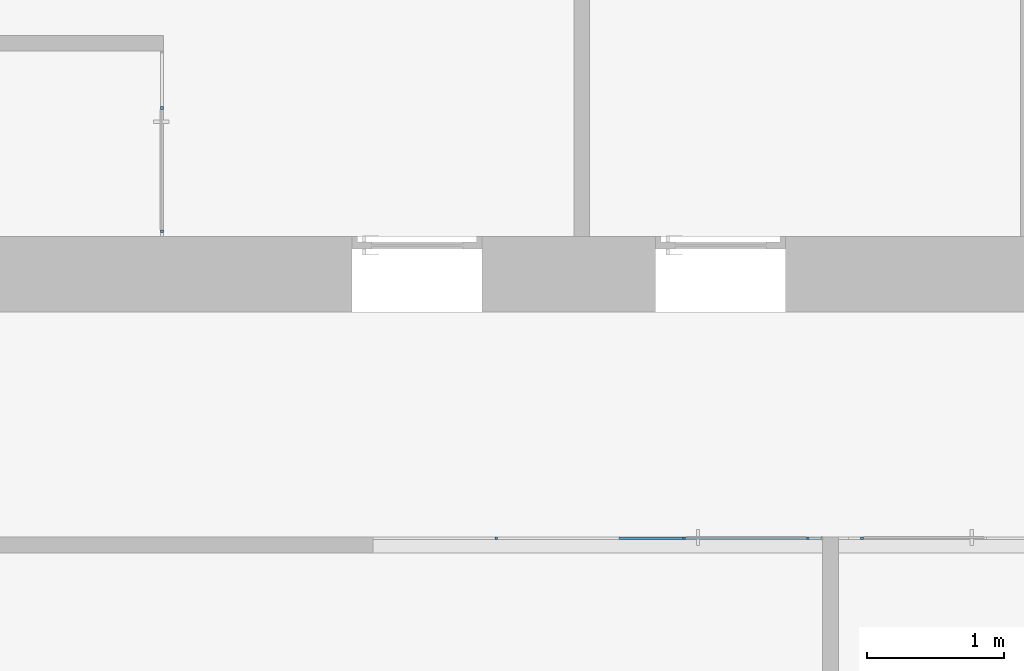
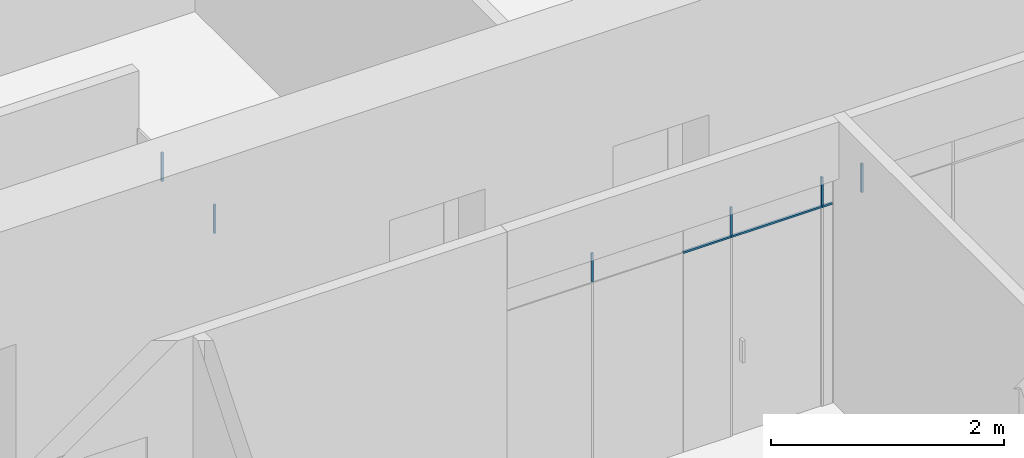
# One storey, part 9 of 73: 9 members, 3 elements without a shape of their own.
"""IFC2X3 building model written with IfcOpenShell, lengths in millimetres."""

from ifc_helpers import new_model, entity, si_unit, converted_unit, derived_unit, direction, frame, origin, origin_2d_with_axis, place, context, subcontext, project, spatial, rectangle, extrude, source, transform, mapped, material, type_object, type_shapes, element, aggregate, save


model = new_model("IFC2X3")

# Units and contexts
model_context = context("Model", 3, precision=0.01, world=origin(), true_north=direction((6.12303176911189e-17, 1.0)))
body_context = subcontext(model_context, "Body", "Model", "MODEL_VIEW")
ifc_project = project(units=[si_unit("LENGTHUNIT", "METRE", prefix="MILLI"), si_unit("AREAUNIT", "SQUARE_METRE"), si_unit("VOLUMEUNIT", "CUBIC_METRE"), converted_unit("PLANEANGLEUNIT", "DEGREE", entity("IfcRatioMeasure", 0.0174532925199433), si_unit("PLANEANGLEUNIT", "RADIAN"), dimensions=[0, 0, 0, 0, 0, 0, 0]), si_unit("MASSUNIT", "GRAM", prefix="KILO"), derived_unit("MASSDENSITYUNIT", [(si_unit("MASSUNIT", "GRAM", prefix="KILO"), 1), (si_unit("LENGTHUNIT", "METRE"), -3)]), si_unit("TIMEUNIT", "SECOND"), si_unit("FREQUENCYUNIT", "HERTZ"), si_unit("THERMODYNAMICTEMPERATUREUNIT", "DEGREE_CELSIUS"), derived_unit("THERMALTRANSMITTANCEUNIT", [(si_unit("MASSUNIT", "GRAM", prefix="KILO"), 1), (si_unit("THERMODYNAMICTEMPERATUREUNIT", "KELVIN"), -1), (si_unit("TIMEUNIT", "SECOND"), -3)]), derived_unit("VOLUMETRICFLOWRATEUNIT", [(si_unit("LENGTHUNIT", "METRE"), 3), (si_unit("TIMEUNIT", "SECOND"), -1)]), si_unit("ELECTRICCURRENTUNIT", "AMPERE"), si_unit("ELECTRICVOLTAGEUNIT", "VOLT"), si_unit("POWERUNIT", "WATT"), si_unit("FORCEUNIT", "NEWTON", prefix="KILO"), si_unit("ILLUMINANCEUNIT", "LUX"), si_unit("LUMINOUSFLUXUNIT", "LUMEN"), si_unit("LUMINOUSINTENSITYUNIT", "CANDELA"), derived_unit("USERDEFINED", [(si_unit("MASSUNIT", "GRAM", prefix="KILO"), -1), (si_unit("LENGTHUNIT", "METRE"), -2), (si_unit("TIMEUNIT", "SECOND"), 3), (si_unit("LUMINOUSFLUXUNIT", "LUMEN"), 1)]), derived_unit("LINEARVELOCITYUNIT", [(si_unit("LENGTHUNIT", "METRE"), 1), (si_unit("TIMEUNIT", "SECOND"), -1)]), si_unit("PRESSUREUNIT", "PASCAL"), derived_unit("USERDEFINED", [(si_unit("LENGTHUNIT", "METRE"), -2), (si_unit("MASSUNIT", "GRAM", prefix="KILO"), 1), (si_unit("TIMEUNIT", "SECOND"), -2)])], contexts=[model_context])

# Site, building, storey
site_placement = place(None, frame((-151.875543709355, 2715.0, 0.0)))
site = spatial("IfcSite", under=ifc_project, at=site_placement, Name="Surface", CompositionType="ELEMENT")
building_placement = place(site_placement, origin())
building = spatial("IfcBuilding", under=site, at=building_placement, CompositionType="ELEMENT")
storey_placement = place(building_placement, frame((0.0, 0.0, 6730.43000000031)))
storey = spatial("IfcBuildingStorey", under=building, at=storey_placement, Name="3 korrus", CompositionType="ELEMENT", Elevation=6730.43000000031)

# Curtain wall, members
curtain_wall_type_1 = type_object("IfcCurtainWallType", Name="Curtain Wall:Klaassein KLS-10", PredefinedType="NOTDEFINED")
curtain_wall_1_placement = place(storey_placement, frame((0.0, 0.0, -6730.43000000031)))
curtain_wall_1 = element("IfcCurtainWall", 1, at=curtain_wall_1_placement, inside=storey, type_object=curtain_wall_type_1, Name="Curtain Wall:Klaassein KLS-10", ObjectType="Curtain Wall:Klaassein KLS-10")
ifc_material = material(Name="__Uks_hele tamm")
member_type_1 = type_object("IfcMemberType", Name="20 x 20mm", PredefinedType="MEMBER")
shared_shape_1 = source(origin(), body_context, "Body", "SweptSolid", [
    extrude(rectangle(XDim=20.0, YDim=20.0, at=origin_2d_with_axis()), frame((0.0, 0.0, -300.0), z_axis=(0.0, 0.0, 1.0), x_axis=(0.0, -1.0, 0.0)), (0.0, 0.0, 1.0), 299.999999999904),
])
type_shapes(member_type_1, [shared_shape_1])
member_1_placement = place(storey_placement, frame((10572.8493480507, 7500.0, 2100.0), z_axis=(0.0, 0.0, -1.0), x_axis=(0.0, -1.0, 0.0)))
member_1 = element("IfcMember", 2, at=member_1_placement, type_object=member_type_1, material=ifc_material, Name="Rectangular Mullion:20 x 20mm", ObjectType="20 x 20mm", context=body_context, shape_type="MappedRepresentation", body=[
    mapped(shared_shape_1, transform((0.0, 0.0, 0.0), scale=1.0)),
])
member_2_placement = place(storey_placement, frame((10572.8493480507, 6600.0, 2100.0), z_axis=(0.0, 0.0, -1.0), x_axis=(0.0, -1.0, 0.0)))
member_2 = element("IfcMember", 3, at=member_2_placement, type_object=member_type_1, material=ifc_material, Name="Rectangular Mullion:20 x 20mm", ObjectType="20 x 20mm", context=body_context, shape_type="MappedRepresentation", body=[
    mapped(shared_shape_1, transform((0.0, 0.0, 0.0), scale=1.0)),
])
aggregate(curtain_wall_1, [member_1, member_2])

# Curtain wall, member
curtain_wall_type_2 = type_object("IfcCurtainWallType", Name="Curtain Wall:Klaassein KLS-18", PredefinedType="NOTDEFINED")
curtain_wall_2_placement = place(storey_placement, frame((0.0, 0.0, -6730.43000000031)))
curtain_wall_2 = element("IfcCurtainWall", 4, at=curtain_wall_2_placement, inside=storey, type_object=curtain_wall_type_2, Name="Curtain Wall:Klaassein KLS-18", ObjectType="Curtain Wall:Klaassein KLS-18")
member_type_2 = type_object("IfcMemberType", Name="20 x 20mm", PredefinedType="MEMBER")
shared_shape_2 = source(origin(), body_context, "Body", "SweptSolid", [
    extrude(rectangle(XDim=20.0, YDim=20.0, at=origin_2d_with_axis()), frame((0.0, 0.0, -300.0), z_axis=(0.0, 0.0, 1.0), x_axis=(0.0, -1.0, 0.0)), (0.0, 0.0, 1.0), 299.999999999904),
])
type_shapes(member_type_2, [shared_shape_2])
member_3_placement = place(storey_placement, frame((15689.4201096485, 4355.04493399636, 2100.0), z_axis=(0.0, 0.0, -1.0), x_axis=(1.0, 0.0, 0.0)))
member_3 = element("IfcMember", 5, at=member_3_placement, type_object=member_type_2, material=ifc_material, Name="Rectangular Mullion:20 x 20mm", ObjectType="20 x 20mm", context=body_context, shape_type="MappedRepresentation", body=[
    mapped(shared_shape_2, transform((0.0, 0.0, 0.0), scale=1.0)),
])
aggregate(curtain_wall_2, [member_3])

# Curtain wall, members
curtain_wall_type_3 = type_object("IfcCurtainWallType", Name="Curtain Wall:Klaassein KLS-17", PredefinedType="NOTDEFINED")
curtain_wall_3_placement = place(storey_placement, frame((0.0, 0.0, -6730.43000000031)))
curtain_wall_3 = element("IfcCurtainWall", 6, at=curtain_wall_3_placement, inside=storey, type_object=curtain_wall_type_3, Name="Curtain Wall:Klaassein KLS-17", ObjectType="Curtain Wall:Klaassein KLS-17")
member_4_placement = place(storey_placement, frame((13015.5647264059, 4355.04493399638, 2100.0), z_axis=(0.0, 0.0, -1.0), x_axis=(1.0, 0.0, 0.0)))
member_4 = element("IfcMember", 7, at=member_4_placement, type_object=member_type_2, material=ifc_material, Name="Rectangular Mullion:20 x 20mm", ObjectType="20 x 20mm", context=body_context, shape_type="MappedRepresentation", body=[
    mapped(shared_shape_2, transform((0.0, 0.0, 0.0), scale=1.0)),
])
member_type_3 = type_object("IfcMemberType", Name="20 x 20mm", PredefinedType="MEMBER")
shared_shape_3 = source(origin(), body_context, "Body", "SweptSolid", [
    extrude(rectangle(XDim=20.0, YDim=20.0, at=origin_2d_with_axis()), frame((0.0, 0.0, -300.0), z_axis=(0.0, 0.0, 1.0), x_axis=(0.0, -1.0, 0.0)), (0.0, 0.0, 1.0), 299.999999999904),
])
type_shapes(member_type_3, [shared_shape_3])
member_5_placement = place(storey_placement, frame((15291.5647264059, 4355.04493399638, 2100.0), z_axis=(0.0, 0.0, -1.0), x_axis=(1.0, 0.0, 0.0)))
member_5 = element("IfcMember", 8, at=member_5_placement, type_object=member_type_3, material=ifc_material, Name="Rectangular Mullion:20 x 20mm", ObjectType="20 x 20mm", context=body_context, shape_type="MappedRepresentation", body=[
    mapped(shared_shape_3, transform((0.0, 0.0, 0.0), scale=1.0)),
])
member_6_placement = place(storey_placement, frame((14391.5647264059, 4355.04493399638, 2100.0), z_axis=(0.0, 0.0, -1.0), x_axis=(1.0, 0.0, 0.0)))
member_6 = element("IfcMember", 9, at=member_6_placement, type_object=member_type_3, material=ifc_material, Name="Rectangular Mullion:20 x 20mm", ObjectType="20 x 20mm", context=body_context, shape_type="MappedRepresentation", body=[
    mapped(shared_shape_3, transform((0.0, 0.0, 0.0), scale=1.0)),
])
member_type_4 = type_object("IfcMemberType", Name="20 x 20mm", PredefinedType="MEMBER")
shared_shape_4 = source(origin(), body_context, "Body", "SweptSolid", [
    extrude(rectangle(XDim=20.0, YDim=20.0, at=origin_2d_with_axis()), frame((0.0, 0.0, -476.0), z_axis=(0.0, 0.0, 1.0), x_axis=(0.0, -1.0, 0.0)), (0.0, 0.0, 1.0), 476.000000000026),
])
type_shapes(member_type_4, [shared_shape_4])
member_7_placement = place(storey_placement, frame((14391.5647264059, 4355.04493399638, 2090.0), z_axis=(1.0, 0.0, 0.0), x_axis=(0.0, 0.0, 1.0)))
member_7 = element("IfcMember", 10, at=member_7_placement, type_object=member_type_4, material=ifc_material, Name="Rectangular Mullion:20 x 20mm", ObjectType="20 x 20mm", context=body_context, shape_type="MappedRepresentation", body=[
    mapped(shared_shape_4, transform((0.0, 0.0, 0.0), scale=1.0)),
])
member_type_5 = type_object("IfcMemberType", Name="20 x 20mm", PredefinedType="MEMBER")
shared_shape_5 = source(origin(), body_context, "Body", "SweptSolid", [
    extrude(rectangle(XDim=20.0, YDim=20.0, at=origin_2d_with_axis()), frame((0.0, 0.0, -100.0), z_axis=(0.0, 0.0, 1.0), x_axis=(0.0, -1.0, 0.0)), (0.0, 0.0, 1.0), 99.9999999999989),
])
type_shapes(member_type_5, [shared_shape_5])
member_8_placement = place(storey_placement, frame((15391.5647264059, 4355.04493399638, 2090.0), z_axis=(1.0, 0.0, 0.0), x_axis=(0.0, 0.0, 1.0)))
member_8 = element("IfcMember", 11, at=member_8_placement, type_object=member_type_5, material=ifc_material, Name="Rectangular Mullion:20 x 20mm", ObjectType="20 x 20mm", context=body_context, shape_type="MappedRepresentation", body=[
    mapped(shared_shape_5, transform((0.0, 0.0, 0.0), scale=1.0)),
])
member_type_6 = type_object("IfcMemberType", Name="20 x 20mm", PredefinedType="MEMBER")
shared_shape_6 = source(origin(), body_context, "Body", "SweptSolid", [
    extrude(rectangle(XDim=20.0, YDim=20.0, at=origin_2d_with_axis()), frame((0.0, 0.0, -900.0), z_axis=(0.0, 0.0, 1.0), x_axis=(0.0, -1.0, 0.0)), (0.0, 0.0, 1.0), 899.999999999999),
])
type_shapes(member_type_6, [shared_shape_6])
member_9_placement = place(storey_placement, frame((15291.5647264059, 4355.04493399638, 2090.0), z_axis=(1.0, 0.0, 0.0), x_axis=(0.0, 0.0, 1.0)))
member_9 = element("IfcMember", 12, at=member_9_placement, type_object=member_type_6, material=ifc_material, Name="Rectangular Mullion:20 x 20mm", ObjectType="20 x 20mm", context=body_context, shape_type="MappedRepresentation", body=[
    mapped(shared_shape_6, transform((0.0, 0.0, 0.0), scale=1.0)),
])
aggregate(curtain_wall_3, [member_4, member_7, member_8, member_5, member_9, member_6])

save(model, "model.ifc")
